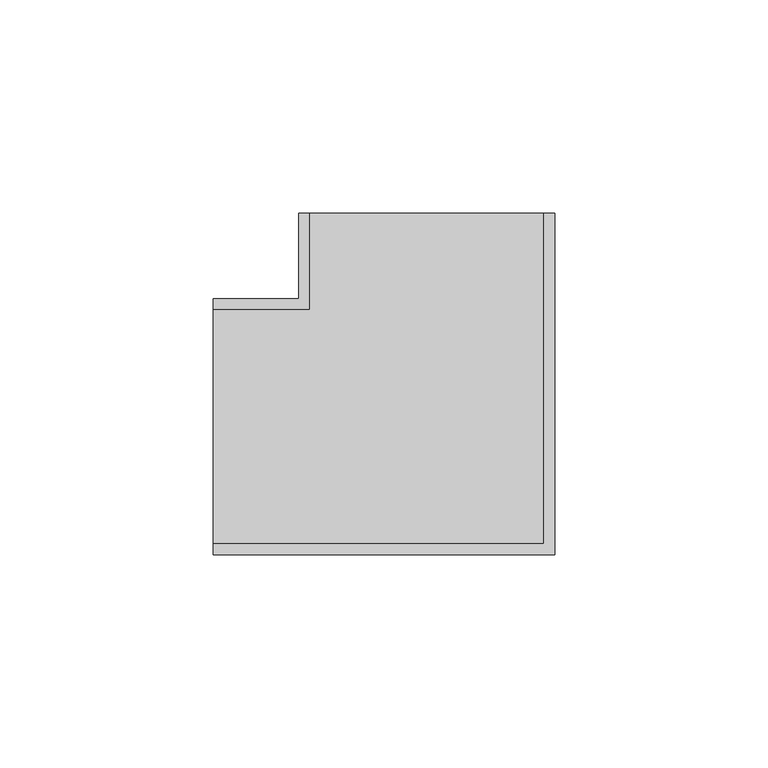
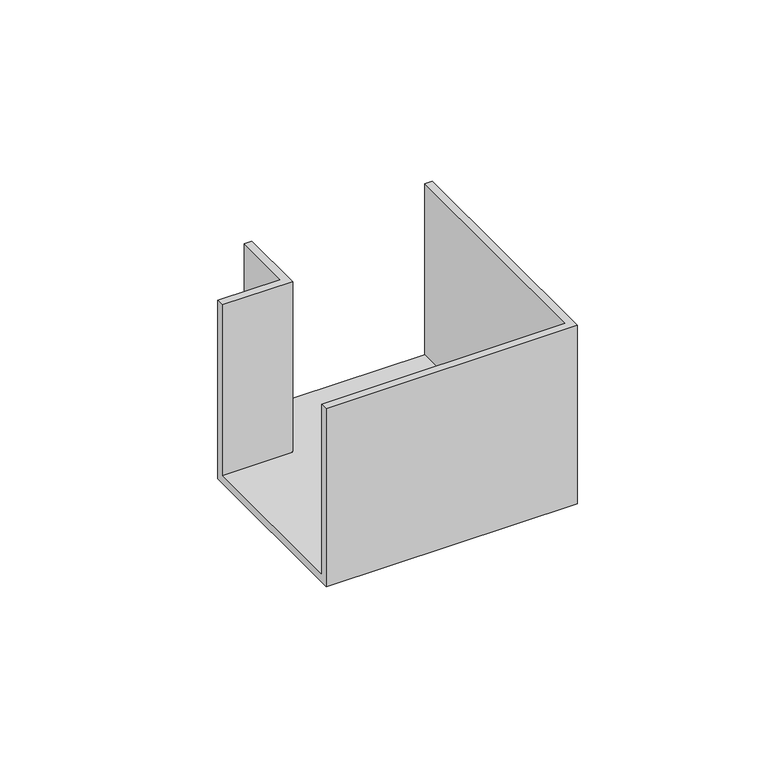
"""IFC4 building model written with IfcOpenShell, lengths in millimetres: cable carrier fitting geometry, КНС_УголПлоский NPAN_ILC_DKC : Угол плоский NPAN_DKC."""

from ifc_helpers import new_model, si_unit, origin, place, context, project, spatial, faceted_brep, source, transform, mapped, element, save


def cable_carrier_fitting_3f10c478(model_context):
    return source(origin(), model_context, "Body", "Brep", [
        faceted_brep([(-50.0, 30.0, -30.0), (-50.0, -30.0, -30.0), (-50.0, -30.0, 30.0), (-50.0, -27.5, 30.0), (-50.0, -27.5, -27.5), (-50.0, 27.5, -27.5), (-50.0, 27.5, 30.0), (-50.0, 30.0, 30.0), (-30.0, 30.0, -30.0), (-30.0, 50.0, -30.0), (30.0, 50.0, -30.0), (30.0, -30.0, -30.0), (30.0, -30.0, 30.0), (30.0, 50.0, 30.0), (27.5, 50.0, 30.0), (27.5, -27.5, 30.0), (27.5, -27.5, -27.5), (27.5, 50.0, -27.5), (-27.5, 50.0, -27.5), (-27.5, 27.5, -27.5), (-27.5, 27.5, 30.0), (-27.5, 50.0, 30.0), (-30.0, 50.0, 30.0), (-30.0, 30.0, 30.0)], [[[0, 1, 2, 3, 4, 5, 6, 7]], [[1, 0, 8, 9, 10, 11]], [[2, 1, 11, 12]], [[3, 2, 12, 13, 14, 15]], [[4, 3, 15, 16]], [[5, 4, 16, 17, 18, 19]], [[6, 5, 19, 20]], [[7, 6, 20, 21, 22, 23]], [[0, 7, 23, 8]], [[9, 22, 21, 18, 17, 14, 13, 10]], [[12, 11, 10, 13]], [[16, 15, 14, 17]], [[20, 19, 18, 21]], [[8, 23, 22, 9]]]),
    ])


if __name__ == "__main__":
    model = new_model("IFC4")
    model_context = context("Model", 3, world=origin())
    ifc_project = project(units=[si_unit("LENGTHUNIT", "METRE", prefix="MILLI")], contexts=[model_context])
    site = spatial("IfcSite", under=ifc_project)
    building = spatial("IfcBuilding", under=site)
    placement = place(None, origin())
    cable_carrier_fitting_shape = cable_carrier_fitting_3f10c478(model_context)
    element("IfcCableCarrierFitting", 1, ObjectType="КНС_УголПлоский NPAN_ILC_DKC : Угол плоский NPAN_DKC", at=placement, inside=building, context=model_context, shape_type="MappedRepresentation", body=[
        mapped(cable_carrier_fitting_shape, transform((0.0, 0.0, 0.0), x_axis=(1.0, 0.0, 0.0), y_axis=(0.0, 1.0, 0.0), z_axis=(0.0, 0.0, 1.0))),
    ])
    save(model, "model.ifc")
